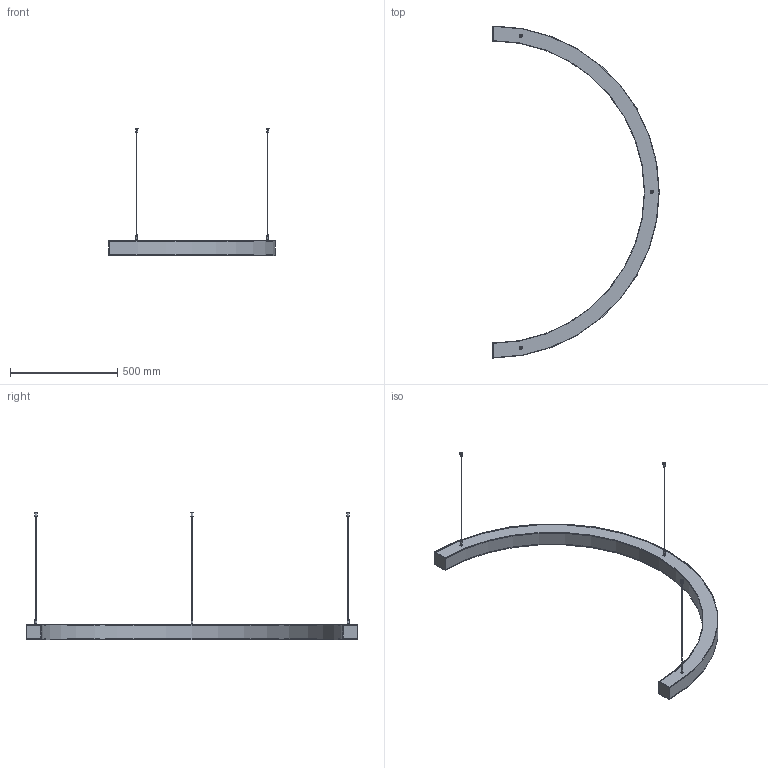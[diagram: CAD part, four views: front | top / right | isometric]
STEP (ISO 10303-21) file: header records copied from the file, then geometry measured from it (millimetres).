
FILE_DESCRIPTION(('STEP AP203'), '1');
FILE_NAME('Half RIN 70 1550mm', '', ('UNSPECIFIED'), ('UNSPECIFIED'), 'C3D Converter', 'C3D Toolkit', '');
FILE_SCHEMA(('CONFIG_CONTROL_DESIGN'));
Length unit declared in the file: millimetre
Assembly tree (13 placements, depth 4):
  (unnamed)
    (unnamed)
    (unnamed)
    (unnamed)
    (unnamed)  x2
    (unnamed)  x3
      (unnamed)
        (unnamed)
        (unnamed)
      (unnamed)
      (unnamed)
Bounding box: 777.5 x 1550 x 593 mm (x, y, z)
Volume: 1048774.8 mm3; surface area: 1420448 mm2
Topology: 18 solids, 18 shells, 163 faces, 315 edges, 209 vertices
Faces by surface type: plane 111, cylinder 49, cone 3
Full cylindrical faces by diameter (mm): 2 x3, 2.5 x3, 4 x3, 4.5 x3, 4.7 x3, 5 x6, 6 x3, 8.8 x3, 9 x6, 11 x3, 15 x3
Entity records: 2699 total; most frequent: DIRECTION 380, CARTESIAN_POINT 333, ORIENTED_EDGE 278, AXIS2_PLACEMENT_3D 150, EDGE_CURVE 139, EDGE_LOOP 108, VERTEX_POINT 103, LINE 80
